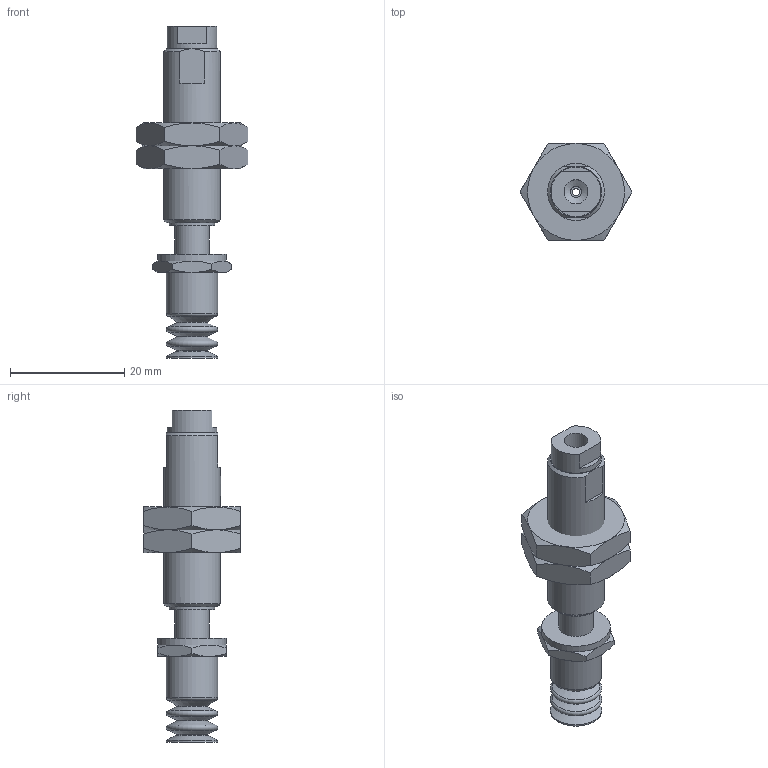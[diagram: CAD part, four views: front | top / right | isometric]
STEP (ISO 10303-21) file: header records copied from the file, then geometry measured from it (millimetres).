
FILE_DESCRIPTION(('STEP AP203'),'1');
FILE_NAME('-LB.stp','2025-04-04T01:55:41',(' '),(' '),'Spatial InterOp 3D',' ',' ');
FILE_SCHEMA(('CONFIG_CONTROL_DESIGN'));
Length unit declared in the file: millimetre
Products named in the file (7): BNABPCTH-10-5-※-LB; __; BODY; NUT; TN-PC-10-M5; BPCG-10-※
Assembly tree (6 placements, depth 2):
  BNABPCTH-10-5-※-LB
    __
    BODY
    NUT
    NUT
    TN-PC-10-M5
    BPCG-10-※
Bounding box: 19.63 x 17 x 58.2 mm (x, y, z)
Volume: 5093.3 mm3; surface area: 4537 mm2
Topology: 6 solids, 6 shells, 123 faces, 254 edges, 149 vertices
Faces by surface type: cone 50, plane 44, cylinder 19, torus 8, sphere 2
Full cylindrical faces by diameter (mm): 1.25 x1, 2 x1, 4 x1, 4.2 x2, 5 x5, 6 x1, 8 x1, 8.7 x1, 9 x4, 10 x1, 12 x1
Entity records: 3428 total; most frequent: CARTESIAN_POINT 738, DIRECTION 492, ORIENTED_EDGE 416, AXIS2_PLACEMENT_3D 230, EDGE_CURVE 208, EDGE_LOOP 182, FACE_OUTER_BOUND 152, VERTEX_POINT 144
